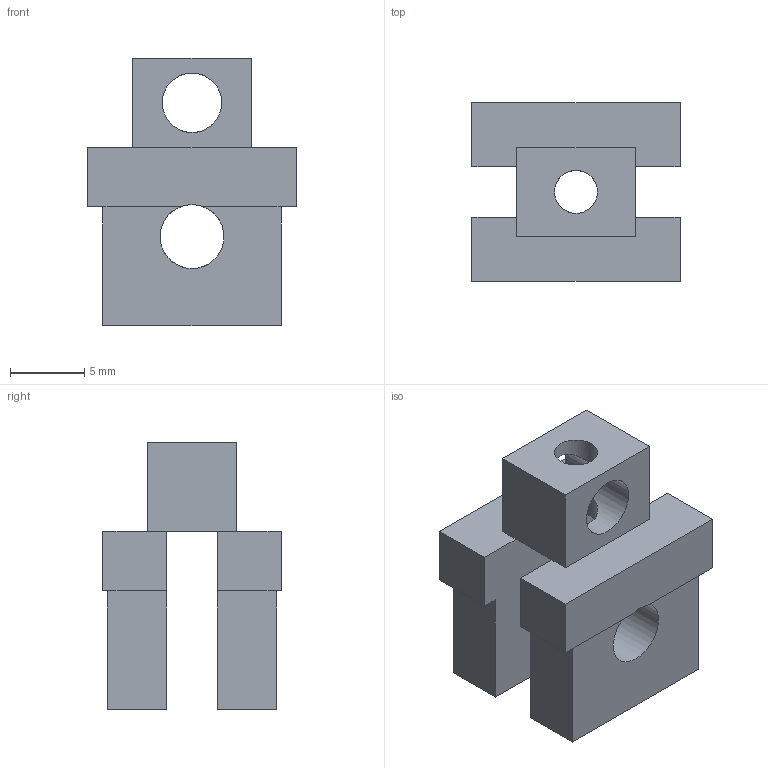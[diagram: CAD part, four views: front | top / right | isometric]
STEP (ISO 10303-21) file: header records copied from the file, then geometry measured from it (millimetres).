
FILE_DESCRIPTION(('Open CASCADE Model'),'2;1');
FILE_NAME('SCZ-SLT','2026-11-15T22:39:10',('Author'),('Open CASCADE'), 'Open CASCADE STEP processor 8.0','build123d','Unknown');
FILE_SCHEMA(('AUTOMOTIVE_DESIGN { 1 0 10303 214 1 1 1 1 }'));
Length unit declared in the file: millimetre
Products named in the file (1): SCZ-SLT
Bounding box: 14 x 12 x 18 mm (x, y, z)
Volume: 1330.8 mm3; surface area: 1364.4 mm2
Topology: 1 solids, 1 shells, 33 faces, 95 edges, 62 vertices
Faces by surface type: plane 28, cylinder 5
Full cylindrical faces by diameter (mm): 2.9 x2, 4 x1, 4.3 x2
Entity records: 2938 total; most frequent: CARTESIAN_POINT 1067, DIRECTION 329, LINE 235, VECTOR 235, ORIENTED_EDGE 190, PCURVE 190, DEFINITIONAL_REPRESENTATION 190, EDGE_CURVE 95
